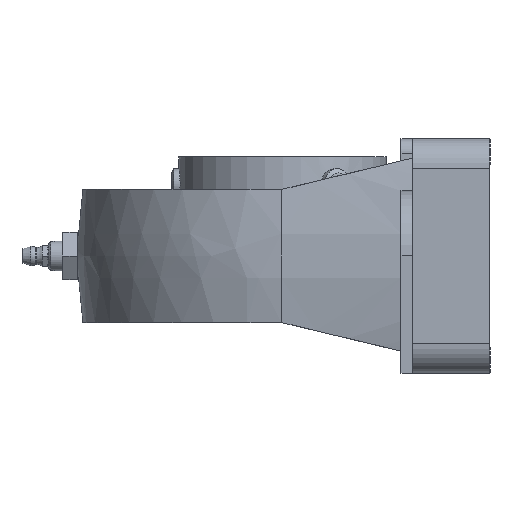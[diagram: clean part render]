
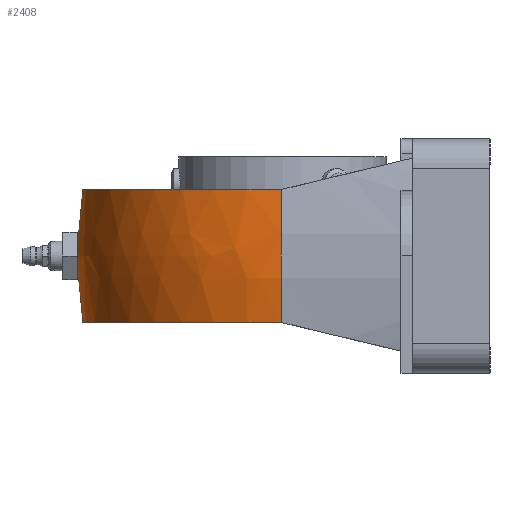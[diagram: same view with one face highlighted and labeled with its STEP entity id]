
A CAD part, left-side view. The second image highlights one B-rep face of the part: STEP entity #2408.
In plain terms, the highlighted free-form (B-spline) face has degree [2, 2] with [3, 5] control points.
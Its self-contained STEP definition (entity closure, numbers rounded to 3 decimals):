
#153=CARTESIAN_POINT('',(0.,69.136,4.188));
#154=VERTEX_POINT('',#153);
#155=CARTESIAN_POINT('',(0.,69.136,4.188));
#156=CARTESIAN_POINT('',(-0.009,69.136,4.188));
#157=CARTESIAN_POINT('',(-0.018,69.136,4.188));
#158=CARTESIAN_POINT('',(-0.054,69.136,4.188));
#159=CARTESIAN_POINT('',(-0.081,69.136,4.187));
#160=CARTESIAN_POINT('',(-0.154,69.136,4.185));
#161=CARTESIAN_POINT('',(-0.199,69.136,4.183));
#162=CARTESIAN_POINT('',(-0.403,69.136,4.172));
#163=CARTESIAN_POINT('',(-0.561,69.135,4.153));
#164=CARTESIAN_POINT('',(-1.203,69.132,4.042));
#165=CARTESIAN_POINT('',(-1.67,69.127,3.872));
#166=CARTESIAN_POINT('',(-2.524,69.114,3.378));
#167=CARTESIAN_POINT('',(-2.904,69.106,3.058));
#168=CARTESIAN_POINT('',(-3.569,69.091,2.258));
#169=CARTESIAN_POINT('',(-3.834,69.084,1.772));
#170=CARTESIAN_POINT('',(-4.161,69.074,0.725));
#171=CARTESIAN_POINT('',(-4.22,69.072,0.173));
#172=CARTESIAN_POINT('',(-4.126,69.075,-0.883));
#173=CARTESIAN_POINT('',(-3.987,69.079,-1.38));
#174=CARTESIAN_POINT('',(-3.554,69.091,-2.265));
#175=CARTESIAN_POINT('',(-3.276,69.098,-2.652));
#176=CARTESIAN_POINT('',(-2.635,69.112,-3.283));
#177=CARTESIAN_POINT('',(-2.287,69.118,-3.534));
#178=CARTESIAN_POINT('',(-1.594,69.128,-3.889));
#179=CARTESIAN_POINT('',(-1.261,69.131,-4.009));
#180=CARTESIAN_POINT('',(-0.744,69.135,-4.125));
#181=CARTESIAN_POINT('',(-0.568,69.135,-4.153));
#182=CARTESIAN_POINT('',(-0.316,69.136,-4.177));
#183=CARTESIAN_POINT('',(-0.24,69.136,-4.182));
#184=CARTESIAN_POINT('',(-0.13,69.136,-4.186));
#185=CARTESIAN_POINT('',(-0.097,69.136,-4.187));
#186=CARTESIAN_POINT('',(-0.04,69.136,-4.188));
#187=CARTESIAN_POINT('',(-0.016,69.136,-4.188));
#188=CARTESIAN_POINT('',(0.033,69.136,-4.188));
#189=CARTESIAN_POINT('',(0.058,69.136,-4.188));
#190=CARTESIAN_POINT('',(0.12,69.136,-4.186));
#191=CARTESIAN_POINT('',(0.158,69.136,-4.185));
#192=CARTESIAN_POINT('',(0.292,69.136,-4.179));
#193=CARTESIAN_POINT('',(0.389,69.136,-4.171));
#194=CARTESIAN_POINT('',(1.013,69.134,-4.098));
#195=CARTESIAN_POINT('',(1.525,69.129,-3.936));
#196=CARTESIAN_POINT('',(2.41,69.116,-3.458));
#197=CARTESIAN_POINT('',(2.785,69.109,-3.163));
#198=CARTESIAN_POINT('',(3.47,69.093,-2.408));
#199=CARTESIAN_POINT('',(3.754,69.086,-1.935));
#200=CARTESIAN_POINT('',(4.127,69.075,-0.901));
#201=CARTESIAN_POINT('',(4.21,69.072,-0.348));
#202=CARTESIAN_POINT('',(4.158,69.074,0.721));
#203=CARTESIAN_POINT('',(4.038,69.078,1.226));
#204=CARTESIAN_POINT('',(3.635,69.089,2.134));
#205=CARTESIAN_POINT('',(3.368,69.096,2.534));
#206=CARTESIAN_POINT('',(2.742,69.11,3.195));
#207=CARTESIAN_POINT('',(2.398,69.116,3.461));
#208=CARTESIAN_POINT('',(1.702,69.126,3.844));
#209=CARTESIAN_POINT('',(1.363,69.13,3.977));
#210=CARTESIAN_POINT('',(0.824,69.134,4.111));
#211=CARTESIAN_POINT('',(0.635,69.135,4.144));
#212=CARTESIAN_POINT('',(0.356,69.136,4.174));
#213=CARTESIAN_POINT('',(0.267,69.136,4.18));
#214=CARTESIAN_POINT('',(0.143,69.136,4.186));
#215=CARTESIAN_POINT('',(0.108,69.136,4.187));
#216=CARTESIAN_POINT('',(0.049,69.136,4.188));
#217=CARTESIAN_POINT('',(0.024,69.136,4.188));
#218=CARTESIAN_POINT('',(0.,69.136,4.188));
#219=B_SPLINE_CURVE_WITH_KNOTS('',3,(#155,#156,#157,#158,#159,#160,#161,#162,#163,#164,#165,#166,#167,#168,#169,#170,#171,#172,#173,#174,#175,#176,#177,#178,#179,#180,#181,#182,#183,#184,#185,#186,#187,#188,#189,#190,#191,#192,#193,#194,#195,#196,#197,#198,#199,#200,#201,#202,#203,#204,#205,#206,#207,#208,#209,#210,#211,#212,#213,#214,#215,#216,#217,#218),.UNSPECIFIED.,.T.,.U.,(4,2,2,2,2,2,2,2,2,2,2,2,2,2,2,2,2,2,2,2,2,2,2,2,2,2,2,2,2,2,2,4),(-2.638,-2.635,-2.627,-2.613,-2.566,-2.418,-2.27,-2.105,-1.94,-1.787,-1.645,-1.517,-1.411,-1.358,-1.335,-1.325,-1.318,-1.311,-1.299,-1.27,-1.111,-0.968,-0.805,-0.638,-0.484,-0.341,-0.211,-0.102,-0.044,-0.018,-0.007,0.0),.UNSPECIFIED.);
#220=EDGE_CURVE('',#154,#154,#219,.T.);
#2056=CARTESIAN_POINT('',(67.352,0.459,22.5));
#2057=VERTEX_POINT('',#2056);
#2064=CARTESIAN_POINT('',(-67.352,0.459,22.5));
#2065=VERTEX_POINT('',#2064);
#2066=CARTESIAN_POINT('',(0.0,0.,22.5));
#2067=DIRECTION('',(0.0,0.0,-1.0));
#2068=DIRECTION('',(-1.0,0.0,0.0));
#2069=AXIS2_PLACEMENT_3D('',#2066,#2067,#2068);
#2070=CIRCLE('',#2069,67.353);
#2071=EDGE_CURVE('',#2065,#2057,#2070,.T.);
#2203=CARTESIAN_POINT('',(-67.352,0.459,-22.5));
#2204=VERTEX_POINT('',#2203);
#2205=CARTESIAN_POINT('',(68.798,-0.469,0.));
#2206=DIRECTION('',(-0.007,-1.,0.));
#2207=DIRECTION('',(-0.971,0.007,-0.239));
#2208=AXIS2_PLACEMENT_3D('',#2205,#2206,#2207);
#2209=CIRCLE('',#2208,138.);
#2210=EDGE_CURVE('',#2065,#2204,#2209,.T.);
#2320=CARTESIAN_POINT('',(67.352,0.459,-22.5));
#2321=VERTEX_POINT('',#2320);
#2322=CARTESIAN_POINT('',(0.0,0.,-22.5));
#2323=DIRECTION('',(0.0,0.0,1.0));
#2324=DIRECTION('',(-1.0,0.0,0.0));
#2325=AXIS2_PLACEMENT_3D('',#2322,#2323,#2324);
#2326=CIRCLE('',#2325,67.353);
#2327=EDGE_CURVE('',#2321,#2204,#2326,.T.);
#2360=CARTESIAN_POINT('',(-68.798,-0.469,0.));
#2361=DIRECTION('',(-0.007,1.,0.));
#2362=DIRECTION('',(0.971,0.007,-0.239));
#2363=AXIS2_PLACEMENT_3D('',#2360,#2361,#2362);
#2364=CIRCLE('',#2363,138.);
#2365=EDGE_CURVE('',#2057,#2321,#2364,.T.);
#2376=CARTESIAN_POINT('',(67.352,0.447,22.5));
#2377=CARTESIAN_POINT('',(71.07,0.471,0.));
#2378=CARTESIAN_POINT('',(67.352,0.447,-22.5));
#2379=CARTESIAN_POINT('',(66.908,67.353,22.5));
#2380=CARTESIAN_POINT('',(70.602,71.072,0.));
#2381=CARTESIAN_POINT('',(66.908,67.353,-22.5));
#2382=CARTESIAN_POINT('',(0.,67.353,22.5));
#2383=CARTESIAN_POINT('',(0.,71.072,0.));
#2384=CARTESIAN_POINT('',(0.,67.353,-22.5));
#2385=CARTESIAN_POINT('',(-66.908,67.353,22.5));
#2386=CARTESIAN_POINT('',(-70.602,71.072,0.));
#2387=CARTESIAN_POINT('',(-66.908,67.353,-22.5));
#2388=CARTESIAN_POINT('',(-67.352,0.447,22.5));
#2389=CARTESIAN_POINT('',(-71.07,0.471,0.));
#2390=CARTESIAN_POINT('',(-67.352,0.447,-22.5));
#2398=(BOUNDED_SURFACE()B_SPLINE_SURFACE(2,2,((#2376,#2379,#2382,#2385,#2388),(#2377,#2380,#2383,#2386,#2389),(#2378,#2381,#2384,#2387,#2390)),.UNSPECIFIED.,.F.,.F.,.U.)B_SPLINE_SURFACE_WITH_KNOTS((3,3),(3,2,3),(-0.164,0.164),(0.0,1.564,3.128),.UNSPECIFIED.)GEOMETRIC_REPRESENTATION_ITEM()RATIONAL_B_SPLINE_SURFACE(((1.0,0.709,1.0,0.709,1.0),(0.987,0.7,0.987,0.7,0.987),(1.0,0.709,1.0,0.709,1.0)))REPRESENTATION_ITEM('')SURFACE());
#2399=ORIENTED_EDGE('',*,*,#220,.T.);
#2400=EDGE_LOOP('',(#2399));
#2401=FACE_OUTER_BOUND('',#2400,.T.);
#2402=ORIENTED_EDGE('',*,*,#2327,.T.);
#2403=ORIENTED_EDGE('',*,*,#2210,.F.);
#2404=ORIENTED_EDGE('',*,*,#2071,.T.);
#2405=ORIENTED_EDGE('',*,*,#2365,.T.);
#2406=EDGE_LOOP('',(#2402,#2403,#2404,#2405));
#2407=FACE_BOUND('',#2406,.T.);
#2408=ADVANCED_FACE('',(#2401,#2407),#2398,.T.);
